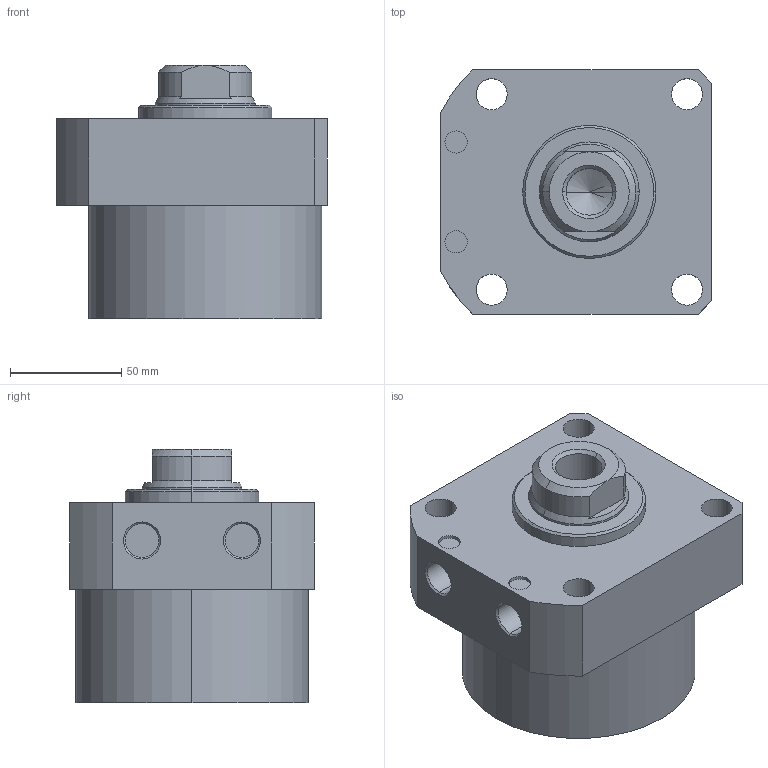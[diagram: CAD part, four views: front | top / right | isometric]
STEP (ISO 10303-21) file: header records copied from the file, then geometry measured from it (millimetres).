
FILE_DESCRIPTION (( 'STEP AP203' ), '1' );
FILE_NAME ('CLLR-105CA-030.STEP', '2019-12-19T01:29:26', ( '' ), ( '' ), 'SwSTEP 2.0', 'SolidWorks 2015', '' );
FILE_SCHEMA (( 'CONFIG_CONTROL_DESIGN' ));
Length unit declared in the file: millimetre
Products named in the file (1): CLLR-105CA-030
Bounding box: 122 x 110 x 114 mm (x, y, z)
Volume: 943755.4 mm3; surface area: 74466.8 mm2
Topology: 1 solids, 1 shells, 63 faces, 146 edges, 91 vertices
Faces by surface type: cylinder 29, plane 19, cone 15
Entity records: 1923 total; most frequent: CARTESIAN_POINT 355, DIRECTION 336, ORIENTED_EDGE 288, EDGE_CURVE 144, AXIS2_PLACEMENT_3D 136, VERTEX_POINT 91, EDGE_LOOP 79, CIRCLE 72
